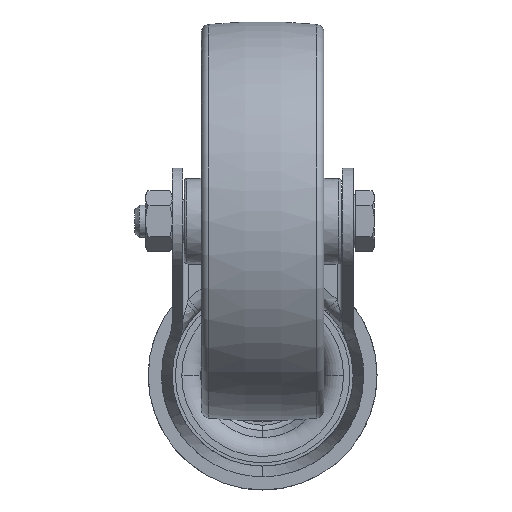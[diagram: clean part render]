
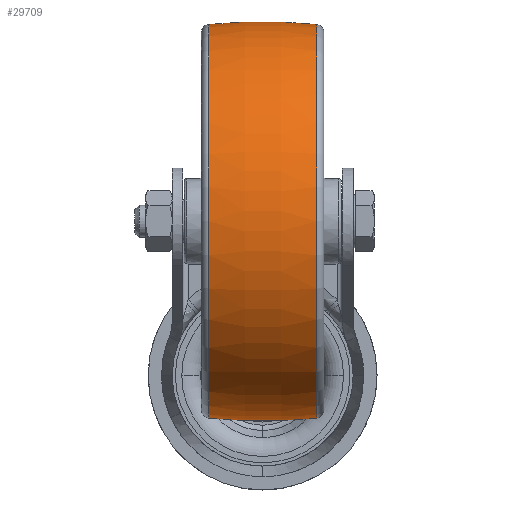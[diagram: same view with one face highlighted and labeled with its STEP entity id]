
A CAD part, front view. The second image highlights one B-rep face of the part: STEP entity #29709.
In plain terms, the highlighted toroidal (fillet/blend) face has major radius 62.5 mm and minor radius 100 mm.
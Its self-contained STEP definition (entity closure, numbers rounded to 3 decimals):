
#1161 = EDGE_LOOP ( 'NONE', ( #28231, #28230, #28229, #28228 ) ) ;
#5370 = EDGE_CURVE ( 'NONE', #32101, #32038, #26315, .T. ) ;
#5374 = EDGE_CURVE ( 'NONE', #32110, #32024, #26320, .T. ) ;
#5649 = EDGE_CURVE ( 'NONE', #32024, #32038, #26603, .T. ) ;
#5651 = EDGE_CURVE ( 'NONE', #32110, #32101, #26605, .T. ) ;
#5665 = AXIS2_PLACEMENT_3D ( 'NONE', #31698, #31697, #31696 ) ;
#5670 = AXIS2_PLACEMENT_3D ( 'NONE', #31689, #31686, #31685 ) ;
#5720 = AXIS2_PLACEMENT_3D ( 'NONE', #11261, #11264, #11266 ) ;
#5724 = AXIS2_PLACEMENT_3D ( 'NONE', #11236, #11250, #11252 ) ;
#11236 = CARTESIAN_POINT ( 'NONE',  ( 0., 0., -62.5 ) ) ;
#11250 = DIRECTION ( 'NONE',  ( 0., -1., 0. ) ) ;
#11252 = DIRECTION ( 'NONE',  ( 0., 0., -1. ) ) ;
#11261 = CARTESIAN_POINT ( 'NONE',  ( 0., 0., 62.5 ) ) ;
#11264 = DIRECTION ( 'NONE',  ( 0., 1., 0. ) ) ;
#11266 = DIRECTION ( 'NONE',  ( 0., 0., 1. ) ) ;
#24505 = DIRECTION ( 'NONE',  ( -1., 0., 0. ) ) ;
#24514 = CARTESIAN_POINT ( 'NONE',  ( 0., 0., 0. ) ) ;
#24526 = DIRECTION ( 'NONE',  ( 0., 0., 1. ) ) ;
#25657 = TOROIDAL_SURFACE ( 'NONE', #36702, -62.5, 100. ) ;
#25664 = FACE_OUTER_BOUND ( 'NONE', #1161, .T. ) ;
#26315 = CIRCLE ( 'NONE', #5665, 36.983 ) ;
#26320 = CIRCLE ( 'NONE', #5670, 36.983 ) ;
#26603 = CIRCLE ( 'NONE', #5724, 100. ) ;
#26605 = CIRCLE ( 'NONE', #5720, 100. ) ;
#28228 = ORIENTED_EDGE ( 'NONE', *, *, #5370, .F. ) ;
#28229 = ORIENTED_EDGE ( 'NONE', *, *, #5649, .T. ) ;
#28230 = ORIENTED_EDGE ( 'NONE', *, *, #5374, .T. ) ;
#28231 = ORIENTED_EDGE ( 'NONE', *, *, #5651, .F. ) ;
#29709 = ADVANCED_FACE ( 'NONE', ( #25664 ), #25657, .T. ) ;
#31685 = DIRECTION ( 'NONE',  ( 0., 0., 1. ) ) ;
#31686 = DIRECTION ( 'NONE',  ( -1., 0., 0. ) ) ;
#31689 = CARTESIAN_POINT ( 'NONE',  ( 10.152, 0., 0. ) ) ;
#31696 = DIRECTION ( 'NONE',  ( 0., 0., 1. ) ) ;
#31697 = DIRECTION ( 'NONE',  ( -1., 0., 0. ) ) ;
#31698 = CARTESIAN_POINT ( 'NONE',  ( -10.152, 0., 0. ) ) ;
#32024 = VERTEX_POINT ( 'NONE', #38567 ) ;
#32038 = VERTEX_POINT ( 'NONE', #38593 ) ;
#32101 = VERTEX_POINT ( 'NONE', #38705 ) ;
#32110 = VERTEX_POINT ( 'NONE', #38721 ) ;
#36702 = AXIS2_PLACEMENT_3D ( 'NONE', #24514, #24505, #24526 ) ;
#38567 = CARTESIAN_POINT ( 'NONE',  ( 10.152, 0., 36.983 ) ) ;
#38593 = CARTESIAN_POINT ( 'NONE',  ( -10.152, 0., 36.983 ) ) ;
#38705 = CARTESIAN_POINT ( 'NONE',  ( -10.152, 0., -36.983 ) ) ;
#38721 = CARTESIAN_POINT ( 'NONE',  ( 10.152, 0., -36.983 ) ) ;
